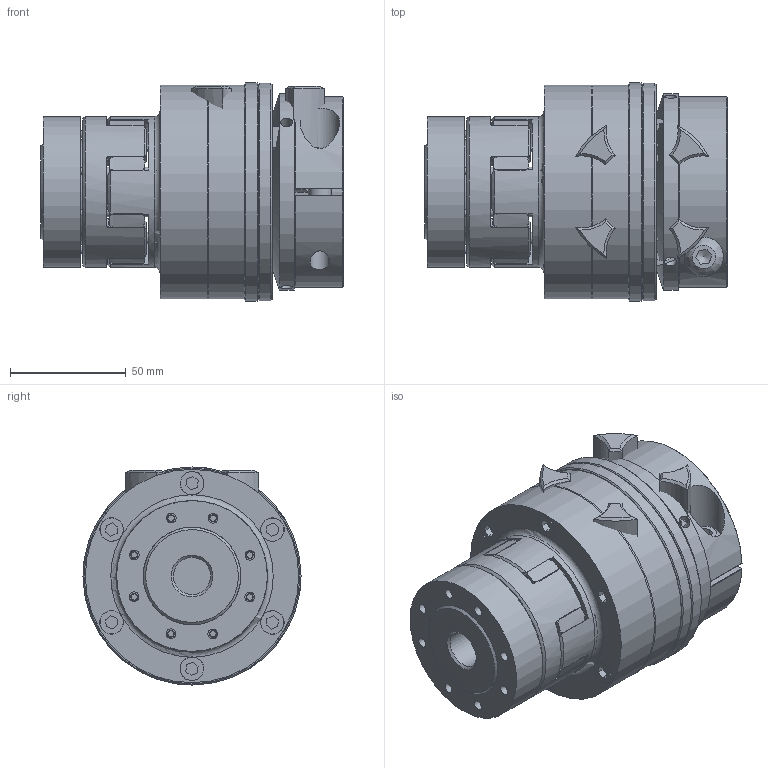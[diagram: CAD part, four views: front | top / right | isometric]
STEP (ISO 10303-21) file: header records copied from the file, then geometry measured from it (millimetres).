
FILE_DESCRIPTION( ( 'Unknown' ), '1' );
FILE_NAME( 'C:/Dokumente und Einstellungen/Sven/Desktop/hp kbk/E-AK/KBK EAK-28-131.stp', 'Unknown', ( 'Unknown' ), ( 'Unknown' ), 'XStep 1.0', 'Unknown', ' ' );
FILE_SCHEMA( ( 'automotive_design' ) );
Length unit declared in the file: millimetre
Products named in the file (20): Assem1; Assem2; Assem3; Assem4; ball_bearing_-_6008_0_01; ball_bearing_-_6008_0_02; ball_bearing_-_6008_0_03; Zylinderschraube DIN 912_3; Zylinderschraube DIN 912; Stellring 80; Druckring 80; Flansch 80; a_40; Elastomerflansch 28; Zahnkranz EK28_Standard; KBK L-K-80 Grundkörper; Klemmnabe 80; schraube_iso_7380-m10x30-12_9; KBE 3 C - 28_Nabe; KBE3-28_Druckring
Bounding box: 130.25 x 94 x 94 mm (x, y, z)
Volume: 1099363.7 mm3; surface area: 363016.9 mm2
Topology: 49 solids, 49 shells, 1061 faces, 2470 edges, 1617 vertices
Faces by surface type: plane 412, cylinder 374, cone 226, torus 47, bspline 2
Full cylindrical faces by diameter (mm): 2.5 x4, 3 x10, 3.242 x6, 4.2 x24, 4.917 x12, 5 x24, 5.2 x6, 5.5 x26, 6 x8, 6.2 x12, 8.376 x2, 9.5 x16, 10 x10, 10.2 x12, 10.5 x2, 16 x2, 17 x2, 19 x2, 30 x6, 37.5 x2, 39 x2, 40 x7, 42 x2, 45 x2, 49.2 x6, 59.1 x6, 61 x2, 62 x4, 65 x6, 68 x7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
Entity records: 12712 total; most frequent: CARTESIAN_POINT 2981, DIRECTION 2076, ORIENTED_EDGE 1608, AXIS2_PLACEMENT_3D 956, EDGE_CURVE 804, EDGE_LOOP 714, VERTEX_POINT 605, FACE_OUTER_BOUND 548
